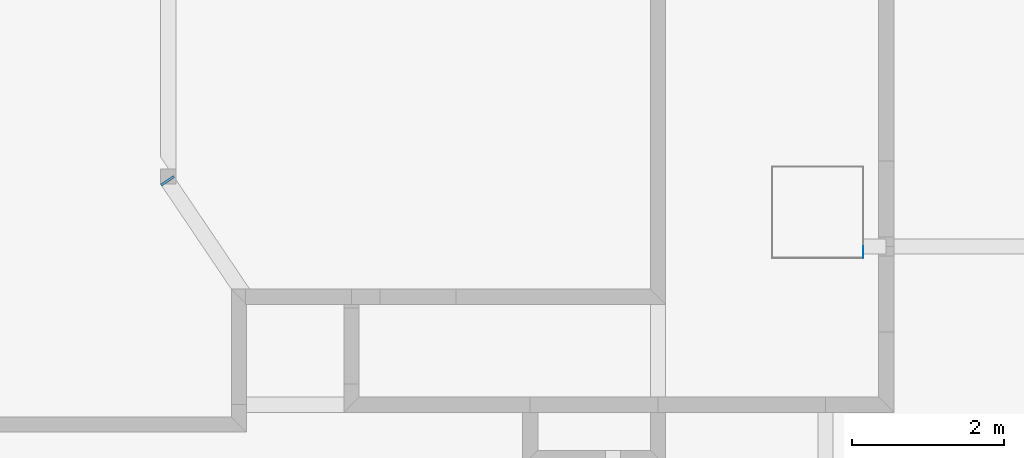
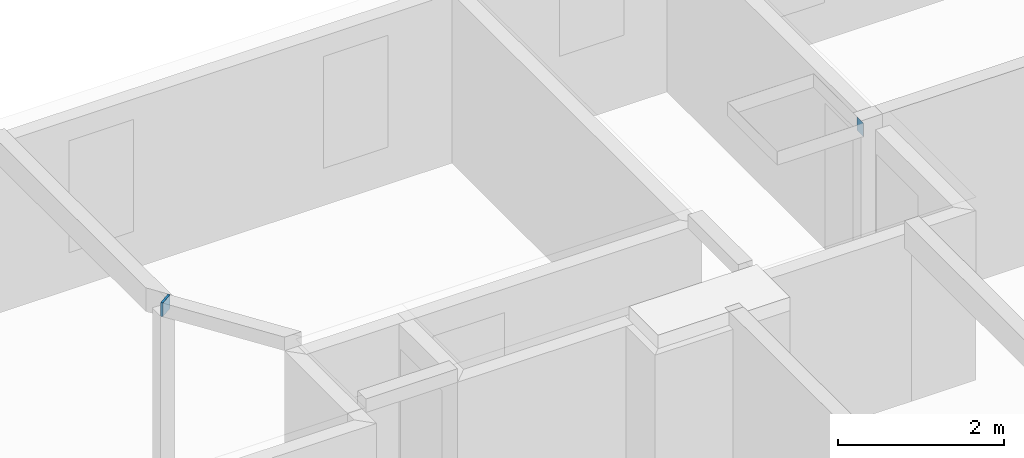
# One storey, part 5 of 11: 2 beams.
"""IFC2X3 building model written with IfcOpenShell, lengths in metres."""

from ifc_helpers import new_model, si_unit, direction, frame, origin_with_axes, place, context, subcontext, project, spatial, polyline, outline, extrude, material, type_object, element, save


model = new_model("IFC2X3")

# Units and contexts
model_context = context("Model", 3, precision=0.0001, world=origin_with_axes(), true_north=direction((0.0, 1.0)))
plan_context = context("Plan", 2, precision=0.0001, world=origin_with_axes(), true_north=direction((0.0, 1.0)))
body_context = subcontext(model_context, "Body", "Model", "MODEL_VIEW")
ifc_project = project(units=[si_unit("MASSUNIT", "GRAM", prefix="KILO"), si_unit("AREAUNIT", "SQUARE_METRE"), si_unit("LENGTHUNIT", "METRE"), si_unit("VOLUMEUNIT", "CUBIC_METRE")], contexts=[plan_context, model_context])

# Site, building, storey
site_placement = place(None, origin_with_axes())
site = spatial("IfcSite", under=ifc_project, at=site_placement, Name="$", CompositionType="ELEMENT")
building_placement = place(site_placement, origin_with_axes())
building = spatial("IfcBuilding", under=site, at=building_placement, Name="Classeur ENS Ensemble", CompositionType="ELEMENT")
storey_placement = place(building_placement, frame((-3.040468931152, -16.07714394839, 6.03), z_axis=(0.0, 0.0, 1.0), x_axis=(1.0, 0.0, 0.0)))
storey = spatial("IfcBuildingStorey", under=building, at=storey_placement, Name="003 R+2", CompositionType="ELEMENT", Elevation=6.03)

# Beams
ifc_material = material(Name="Default material")
beam_type = type_object("IfcBeamType", PredefinedType="BEAM")
beam_1_placement = place(storey_placement, frame((7.65889930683, 11.79288994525, 2.5), z_axis=(0.0, 0.0, 1.0), x_axis=(0.5588934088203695, -0.8292395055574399, 0.0)))
element("IfcBeam", 1, at=beam_1_placement, inside=storey, type_object=beam_type, material=ifc_material, Name="BN 20", context=body_context, shape_type="SweptSolid", held_by="IfcProductRepresentation", body=[
    extrude(outline(polyline([(9.71445146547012e-17, 0.1000000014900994), (9.71445146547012e-17, 0.1000000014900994), (9.71445146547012e-17, 0.1000000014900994), (-0.2962572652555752, 0.1000000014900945), (-0.2962572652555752, 0.1000000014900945), (0.03103940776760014, 0.1000000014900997), (0.03103940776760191, -0.1000000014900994), (0.03103940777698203, -0.1000000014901), (0.03103940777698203, -0.1000000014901), (1.873501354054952e-15, -0.1000000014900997), (1.873501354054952e-15, -0.1000000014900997), (1.873501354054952e-15, -0.1000000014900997), (9.71445146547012e-17, 0.1000000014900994)])), origin_with_axes(), (0.0, 0.0, 1.0), 0.2000000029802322),
])
beam_2_placement = place(storey_placement, frame((16.81578897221, 10.76551139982, 2.5), z_axis=(0.0, 0.0, 1.0), x_axis=(0.0, 1.0, 0.0)))
element("IfcBeam", 2, at=beam_2_placement, inside=storey, type_object=beam_type, material=ifc_material, Name="Poutre auto", context=body_context, shape_type="SweptSolid", held_by="IfcProductRepresentation", body=[
    extrude(outline(polyline([(0.0, 0.001000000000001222), (0.0, 0.001000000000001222), (0.0, 0.001000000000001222), (0.1515892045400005, 0.001000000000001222), (0.1515892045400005, 0.001000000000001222), (0.1515892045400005, 0.001000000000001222), (0.1515892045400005, -0.001000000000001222), (0.1515892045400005, -0.001000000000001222), (0.1515892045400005, -0.001000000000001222), (0.0, -0.001000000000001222), (0.0, -0.001000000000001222), (0.0, -0.001000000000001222), (0.0, 0.001000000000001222)])), origin_with_axes(), (0.0, 0.0, 1.0), 0.2000000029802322),
])

save(model, "model.ifc")
